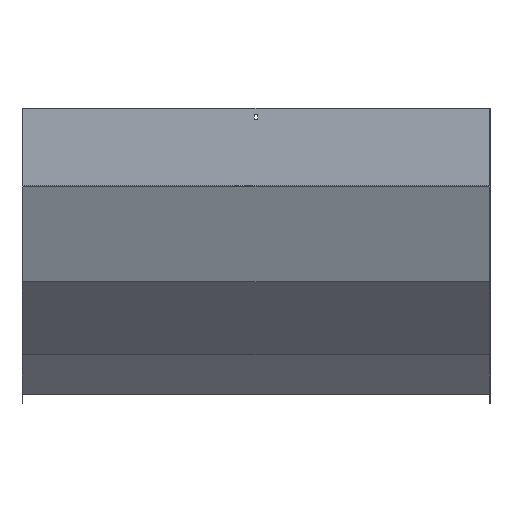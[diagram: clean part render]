
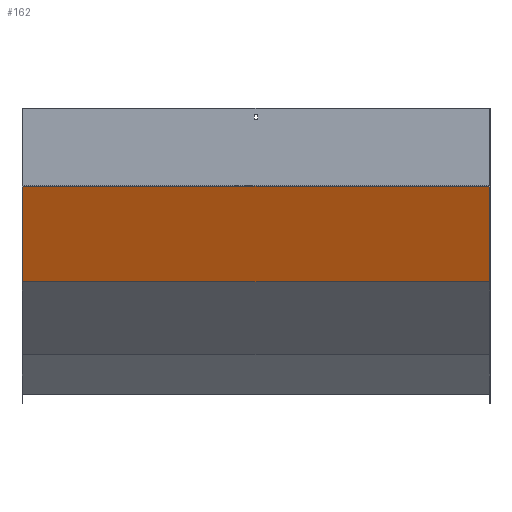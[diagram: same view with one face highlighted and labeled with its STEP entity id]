
A CAD part, front view. The second image highlights one B-rep face of the part: STEP entity #162.
In plain terms, the highlighted planar face has unit normal (0, -0.924, -0.383).
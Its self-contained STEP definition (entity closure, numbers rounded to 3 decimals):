
#130 = CARTESIAN_POINT ( 'NONE',  ( 451.5, 74.768, -334.225 ) ) ;
#162 = ADVANCED_FACE ( 'NONE', ( #342 ), #521, .F. ) ;
#165 = VECTOR ( 'NONE', #266, 1000. ) ;
#167 = LINE ( 'NONE', #1103, #538 ) ;
#183 = DIRECTION ( 'NONE',  ( 0., -0.383, 0.924 ) ) ;
#221 = ORIENTED_EDGE ( 'NONE', *, *, #943, .F. ) ;
#266 = DIRECTION ( 'NONE',  ( -1., 0., 0. ) ) ;
#339 = ORIENTED_EDGE ( 'NONE', *, *, #824, .T. ) ;
#342 = FACE_OUTER_BOUND ( 'NONE', #1105, .T. ) ;
#371 = VECTOR ( 'NONE', #674, 1000. ) ;
#380 = LINE ( 'NONE', #130, #165 ) ;
#402 = VERTEX_POINT ( 'NONE', #567 ) ;
#422 = DIRECTION ( 'NONE',  ( 0., 0.383, -0.924 ) ) ;
#433 = DIRECTION ( 'NONE',  ( 0., 0.924, 0.383 ) ) ;
#474 = VERTEX_POINT ( 'NONE', #849 ) ;
#503 = VERTEX_POINT ( 'NONE', #862 ) ;
#521 = PLANE ( 'NONE',  #904 ) ;
#538 = VECTOR ( 'NONE', #422, 1000. ) ;
#567 = CARTESIAN_POINT ( 'NONE',  ( -450., 74.768, -334.225 ) ) ;
#615 = CARTESIAN_POINT ( 'NONE',  ( 451.5, -1.386, -150.374 ) ) ;
#645 = LINE ( 'NONE', #814, #1096 ) ;
#657 = DIRECTION ( 'NONE',  ( -1., 0., 0. ) ) ;
#674 = DIRECTION ( 'NONE',  ( 0., 0.383, -0.924 ) ) ;
#701 = EDGE_CURVE ( 'NONE', #503, #856, #645, .T. ) ;
#725 = ORIENTED_EDGE ( 'NONE', *, *, #1071, .F. ) ;
#749 = CARTESIAN_POINT ( 'NONE',  ( 450., -54.348, -22.512 ) ) ;
#814 = CARTESIAN_POINT ( 'NONE',  ( 451.5, -1.5, -150.098 ) ) ;
#824 = EDGE_CURVE ( 'NONE', #856, #402, #167, .T. ) ;
#831 = LINE ( 'NONE', #749, #371 ) ;
#849 = CARTESIAN_POINT ( 'NONE',  ( 450., 74.768, -334.225 ) ) ;
#856 = VERTEX_POINT ( 'NONE', #955 ) ;
#860 = ORIENTED_EDGE ( 'NONE', *, *, #701, .T. ) ;
#862 = CARTESIAN_POINT ( 'NONE',  ( 450., -1.5, -150.098 ) ) ;
#904 = AXIS2_PLACEMENT_3D ( 'NONE', #615, #433, #183 ) ;
#943 = EDGE_CURVE ( 'NONE', #474, #402, #380, .T. ) ;
#955 = CARTESIAN_POINT ( 'NONE',  ( -450., -1.5, -150.098 ) ) ;
#1071 = EDGE_CURVE ( 'NONE', #503, #474, #831, .T. ) ;
#1096 = VECTOR ( 'NONE', #657, 1000. ) ;
#1103 = CARTESIAN_POINT ( 'NONE',  ( -450., -54.348, -22.512 ) ) ;
#1105 = EDGE_LOOP ( 'NONE', ( #339, #221, #725, #860 ) ) ;
